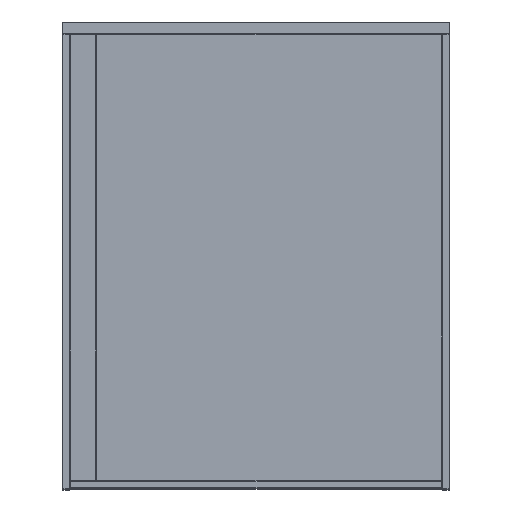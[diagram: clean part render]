
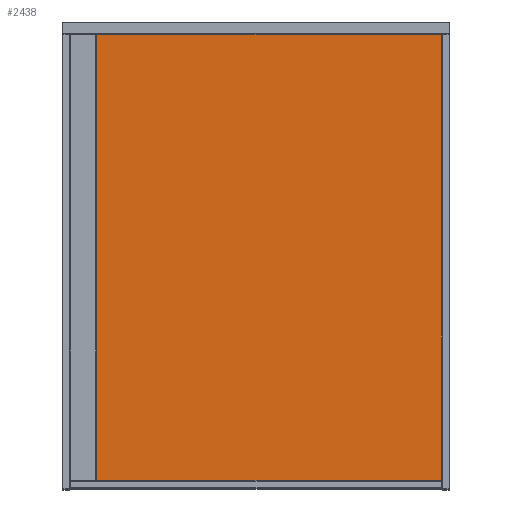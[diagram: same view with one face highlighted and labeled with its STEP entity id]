
A CAD part, top view. The second image highlights one B-rep face of the part: STEP entity #2438.
In plain terms, the highlighted planar face has unit normal (0, 0, 1) as drawn and (0, 1, 0) by its records, which use the part's own axes.
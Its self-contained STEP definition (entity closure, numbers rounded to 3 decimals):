
#265 = CARTESIAN_POINT ( 'NONE',  ( 0., 10., 287.5 ) ) ;
#328 = CARTESIAN_POINT ( 'NONE',  ( 239., 10., 0. ) ) ;
#393 = VERTEX_POINT ( 'NONE', #1286 ) ;
#555 = CARTESIAN_POINT ( 'NONE',  ( -239., 10., -287.5 ) ) ;
#565 = VECTOR ( 'NONE', #2749, 1000. ) ;
#579 = FACE_OUTER_BOUND ( 'NONE', #2767, .T. ) ;
#688 = EDGE_CURVE ( 'NONE', #1077, #758, #718, .T. ) ;
#708 = CARTESIAN_POINT ( 'NONE',  ( 0., 10., -287.5 ) ) ;
#718 = LINE ( 'NONE', #1762, #2217 ) ;
#749 = ORIENTED_EDGE ( 'NONE', *, *, #688, .T. ) ;
#757 = DIRECTION ( 'NONE',  ( 1., 0., 0. ) ) ;
#758 = VERTEX_POINT ( 'NONE', #3307 ) ;
#789 = AXIS2_PLACEMENT_3D ( 'NONE', #2369, #3130, #2578 ) ;
#916 = VERTEX_POINT ( 'NONE', #1440 ) ;
#994 = DIRECTION ( 'NONE',  ( 0., 0., 1. ) ) ;
#1077 = VERTEX_POINT ( 'NONE', #555 ) ;
#1286 = CARTESIAN_POINT ( 'NONE',  ( 239., 10., 287.5 ) ) ;
#1407 = LINE ( 'NONE', #708, #565 ) ;
#1440 = CARTESIAN_POINT ( 'NONE',  ( 239., 10., -287.5 ) ) ;
#1508 = LINE ( 'NONE', #265, #2443 ) ;
#1762 = CARTESIAN_POINT ( 'NONE',  ( -239., 10., 0. ) ) ;
#1888 = LINE ( 'NONE', #328, #3098 ) ;
#1953 = ORIENTED_EDGE ( 'NONE', *, *, #2029, .T. ) ;
#2029 = EDGE_CURVE ( 'NONE', #916, #1077, #1407, .T. ) ;
#2217 = VECTOR ( 'NONE', #994, 1000. ) ;
#2222 = ORIENTED_EDGE ( 'NONE', *, *, #3275, .T. ) ;
#2309 = EDGE_CURVE ( 'NONE', #758, #393, #1508, .T. ) ;
#2369 = CARTESIAN_POINT ( 'NONE',  ( 0., 10., 0. ) ) ;
#2438 = ADVANCED_FACE ( 'NONE', ( #579 ), #2908, .F. ) ;
#2443 = VECTOR ( 'NONE', #757, 1000. ) ;
#2578 = DIRECTION ( 'NONE',  ( 0., 0., -1. ) ) ;
#2749 = DIRECTION ( 'NONE',  ( -1., 0., 0. ) ) ;
#2767 = EDGE_LOOP ( 'NONE', ( #749, #3009, #2222, #1953 ) ) ;
#2908 = PLANE ( 'NONE',  #789 ) ;
#3009 = ORIENTED_EDGE ( 'NONE', *, *, #2309, .T. ) ;
#3098 = VECTOR ( 'NONE', #3145, 1000. ) ;
#3130 = DIRECTION ( 'NONE',  ( 0., -1., 0. ) ) ;
#3145 = DIRECTION ( 'NONE',  ( 0., 0., -1. ) ) ;
#3275 = EDGE_CURVE ( 'NONE', #393, #916, #1888, .T. ) ;
#3307 = CARTESIAN_POINT ( 'NONE',  ( -239., 10., 287.5 ) ) ;
